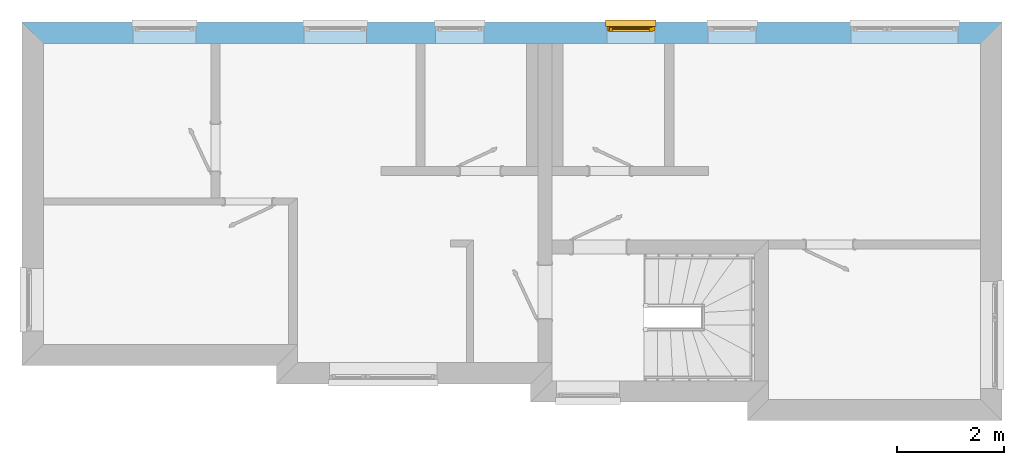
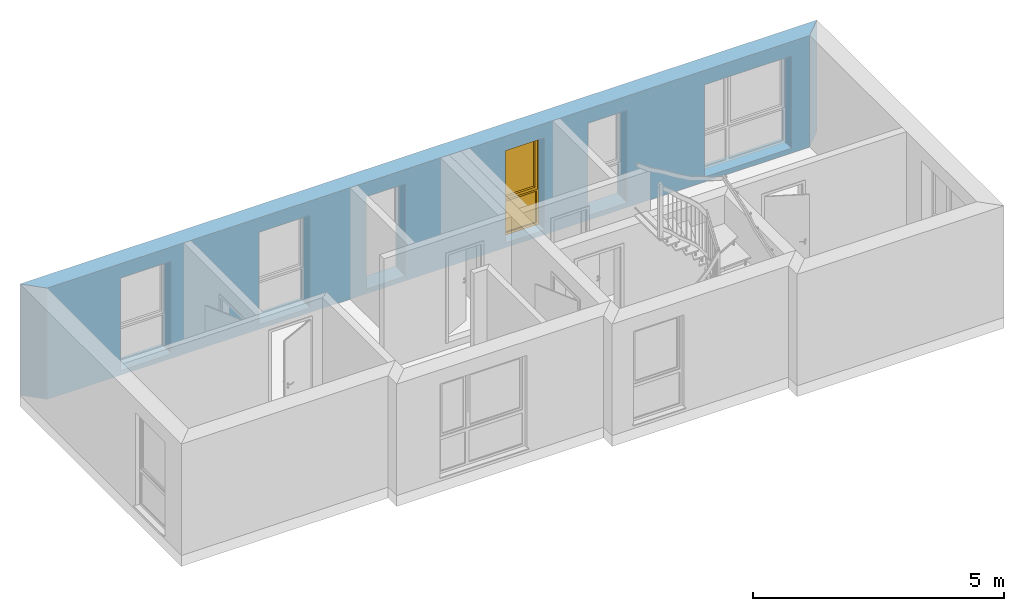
# One storey, part 11 of 16: 1 window, 6 openings, plus 1 element that does not belong to this part.
"""IFC2X3 building model written with IfcOpenShell, lengths in millimetres."""

from ifc_helpers import new_model, si_unit, frame, origin_with_axes, place, context, project, spatial, faceted_brep, material, layer, layer_set, layer_usage, type_object, element, fill, save


model = new_model("IFC2X3")

# Units and contexts
model_context = context("Model", 3, world=origin_with_axes())
ifc_project = project(units=[si_unit("LENGTHUNIT", "METRE", prefix="MILLI")], contexts=[model_context])

# Site, building, storey
site_placement = place(None, origin_with_axes())
site = spatial("IfcSite", under=ifc_project, at=site_placement, Name="Site", CompositionType="ELEMENT")
building_placement = place(site_placement, origin_with_axes())
building = spatial("IfcBuilding", under=site, at=building_placement, Name="?", CompositionType="ELEMENT")
storey_placement = place(building_placement, frame((0.0, 0.0, 2969.0), z_axis=(0.0, 0.0, 1.0), x_axis=(1.0, 0.0, 0.0)))
storey = spatial("IfcBuildingStorey", under=building, at=storey_placement, Name="Obergeschoß 1", CompositionType="ELEMENT", Elevation=2969.0)

# Wall, openings, window
ifc_material = material(Name="Material_AW")
ifc_layer = layer(ifc_material, 395.0, ventilated=False)
ifc_layer_set = layer_set([ifc_layer], Name="MaterialLayerSet_AW")
ifc_layer_usage = layer_usage(ifc_layer_set, "AXIS2", "NEGATIVE", 197.5)
wall_placement = place(storey_placement, frame((197.5, -197.5, 0.0), z_axis=(0.0, 0.0, 1.0), x_axis=(1.0, 0.0, 0.0)))
wall = element("IfcWall", 1, at=wall_placement, inside=storey, material=ifc_layer_usage, Name="AW-11", context=model_context, shape_type="Brep", body=[
    faceted_brep([(17707.5008600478, -197.5, 0.0), (17707.5008600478, -197.5, 2707.0), (197.5, -197.5, 2707.0), (197.5, -197.5, 0.0), (18102.5001275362, 197.499999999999, 0.0), (18102.5001275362, 197.499999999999, 2707.0), (17707.5008600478, -197.500000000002, 2707.0), (17707.5008600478, -197.500000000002, 0.0), (-197.500233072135, 197.5, 0.0), (-197.500233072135, 197.5, 2707.0), (18102.5001275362, 197.5, 2707.0), (18102.5001275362, 197.5, 0.0), (197.5, -197.5, 0.0), (197.5, -197.5, 2707.0), (-197.500233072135, 197.5, 2707.0), (-197.500233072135, 197.5, 0.0), (197.5, -197.5, 0.0), (-197.500233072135, 197.5, 0.0), (18102.5001275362, 197.5, 0.0), (17707.5008600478, -197.5, 0.0), (-197.500233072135, 197.5, 2707.0), (197.5, -197.5, 2707.0), (17707.5008600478, -197.5, 2707.0), (18102.5001275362, 197.5, 2707.0)], [[[0, 1, 2, 3]], [[4, 5, 6, 7]], [[8, 9, 10, 11]], [[12, 13, 14, 15]], [[16, 17, 18, 19]], [[20, 21, 22, 23]]]),
])
opening_1_placement = place(wall_placement, frame((5067.5, 0.0, 116.0), z_axis=(0.0, 0.0, 1.0), x_axis=(1.0, 0.0, 0.0)))
element("IfcOpeningElement", 2, at=opening_1_placement, cuts=wall, Name="AW-11|FE11", context=model_context, shape_type="Brep", body=[
    faceted_brep([(0.0, 207.5, 0.0), (0.0, 207.5, 2244.0), (1170.0, 207.5, 2244.0), (1170.0, 207.5, 0.0), (0.0, -207.5, 0.0), (0.0, -207.5, 2244.0), (0.0, 207.5, 2244.0), (0.0, 207.5, 0.0), (1170.0, -207.5, 0.0), (0.0, -207.5, 0.0), (0.0, 207.5, 0.0), (1170.0, 207.5, 0.0), (1170.0, -207.5, 2244.0), (1170.0, -207.5, 0.0), (1170.0, 207.5, 0.0), (1170.0, 207.5, 2244.0), (0.0, -207.5, 2244.0), (1170.0, -207.5, 2244.0), (1170.0, 207.5, 2244.0), (0.0, 207.5, 2244.0), (0.0, -207.5, 0.0), (1170.0, -207.5, 0.0), (1170.0, -207.5, 2244.0), (0.0, -207.5, 2244.0)], [[[0, 1, 2, 3]], [[4, 5, 6, 7]], [[8, 9, 10, 11]], [[12, 13, 14, 15]], [[16, 17, 18, 19]], [[20, 21, 22, 23]]]),
])
opening_2_placement = place(wall_placement, frame((10723.5, 0.0, 116.0), z_axis=(0.0, 0.0, 1.0), x_axis=(1.0, 0.0, 0.0)))
opening_2 = element("IfcOpeningElement", 3, at=opening_2_placement, cuts=wall, Name="AW-11|FE13", context=model_context, shape_type="Brep", body=[
    faceted_brep([(0.0, 207.5, 0.0), (0.0, 207.5, 2244.0), (900.0, 207.5, 2244.0), (900.0, 207.5, 0.0), (0.0, -207.5, 0.0), (0.0, -207.5, 2244.0), (0.0, 207.5, 2244.0), (0.0, 207.5, 0.0), (900.0, -207.5, 0.0), (0.0, -207.5, 0.0), (0.0, 207.5, 0.0), (900.0, 207.5, 0.0), (900.0, -207.5, 2244.0), (900.0, -207.5, 0.0), (900.0, 207.5, 0.0), (900.0, 207.5, 2244.0), (0.0, -207.5, 2244.0), (900.0, -207.5, 2244.0), (900.0, 207.5, 2244.0), (0.0, 207.5, 2244.0), (0.0, -207.5, 0.0), (900.0, -207.5, 0.0), (900.0, -207.5, 2244.0), (0.0, -207.5, 2244.0)], [[[0, 1, 2, 3]], [[4, 5, 6, 7]], [[8, 9, 10, 11]], [[12, 13, 14, 15]], [[16, 17, 18, 19]], [[20, 21, 22, 23]]]),
])
opening_3_placement = place(wall_placement, frame((12613.5, 0.0, 116.0), z_axis=(0.0, 0.0, 1.0), x_axis=(1.0, 0.0, 0.0)))
element("IfcOpeningElement", 4, at=opening_3_placement, cuts=wall, Name="AW-11|FE14", context=model_context, shape_type="Brep", body=[
    faceted_brep([(0.0, 207.5, 0.0), (0.0, 207.5, 2244.0), (900.0, 207.5, 2244.0), (900.0, 207.5, 0.0), (0.0, -207.5, 0.0), (0.0, -207.5, 2244.0), (0.0, 207.5, 2244.0), (0.0, 207.5, 0.0), (900.0, -207.5, 0.0), (0.0, -207.5, 0.0), (0.0, 207.5, 0.0), (900.0, 207.5, 0.0), (900.0, -207.5, 2244.0), (900.0, -207.5, 0.0), (900.0, 207.5, 0.0), (900.0, 207.5, 2244.0), (0.0, -207.5, 2244.0), (900.0, -207.5, 2244.0), (900.0, 207.5, 2244.0), (0.0, 207.5, 2244.0), (0.0, -207.5, 0.0), (900.0, -207.5, 0.0), (900.0, -207.5, 2244.0), (0.0, -207.5, 2244.0)], [[[0, 1, 2, 3]], [[4, 5, 6, 7]], [[8, 9, 10, 11]], [[12, 13, 14, 15]], [[16, 17, 18, 19]], [[20, 21, 22, 23]]]),
])
opening_4_placement = place(wall_placement, frame((15287.5, 0.0, 116.0), z_axis=(0.0, 0.0, 1.0), x_axis=(1.0, 0.0, 0.0)))
element("IfcOpeningElement", 5, at=opening_4_placement, cuts=wall, Name="AW-11|FE15", context=model_context, shape_type="Brep", body=[
    faceted_brep([(0.0, 207.5, 0.0), (0.0, 207.5, 2244.0), (2000.0, 207.5, 2244.0), (2000.0, 207.5, 0.0), (0.0, -207.5, 0.0), (0.0, -207.5, 2244.0), (0.0, 207.5, 2244.0), (0.0, 207.5, 0.0), (2000.0, -207.5, 0.0), (0.0, -207.5, 0.0), (0.0, 207.5, 0.0), (2000.0, 207.5, 0.0), (2000.0, -207.5, 2244.0), (2000.0, -207.5, 0.0), (2000.0, 207.5, 0.0), (2000.0, 207.5, 2244.0), (0.0, -207.5, 2244.0), (2000.0, -207.5, 2244.0), (2000.0, 207.5, 2244.0), (0.0, 207.5, 2244.0), (0.0, -207.5, 0.0), (2000.0, -207.5, 0.0), (2000.0, -207.5, 2244.0), (0.0, -207.5, 2244.0)], [[[0, 1, 2, 3]], [[4, 5, 6, 7]], [[8, 9, 10, 11]], [[12, 13, 14, 15]], [[16, 17, 18, 19]], [[20, 21, 22, 23]]]),
])
opening_5_placement = place(wall_placement, frame((7527.5, 0.0, 116.0), z_axis=(0.0, 0.0, 1.0), x_axis=(1.0, 0.0, 0.0)))
element("IfcOpeningElement", 6, at=opening_5_placement, cuts=wall, Name="AW-11|FE12", context=model_context, shape_type="Brep", body=[
    faceted_brep([(0.0, 207.5, 0.0), (0.0, 207.5, 2244.0), (900.0, 207.5, 2244.0), (900.0, 207.5, 0.0), (0.0, -207.5, 0.0), (0.0, -207.5, 2244.0), (0.0, 207.5, 2244.0), (0.0, 207.5, 0.0), (900.0, -207.5, 0.0), (0.0, -207.5, 0.0), (0.0, 207.5, 0.0), (900.0, 207.5, 0.0), (900.0, -207.5, 2244.0), (900.0, -207.5, 0.0), (900.0, 207.5, 0.0), (900.0, 207.5, 2244.0), (0.0, -207.5, 2244.0), (900.0, -207.5, 2244.0), (900.0, 207.5, 2244.0), (0.0, 207.5, 2244.0), (0.0, -207.5, 0.0), (900.0, -207.5, 0.0), (900.0, -207.5, 2244.0), (0.0, -207.5, 2244.0)], [[[0, 1, 2, 3]], [[4, 5, 6, 7]], [[8, 9, 10, 11]], [[12, 13, 14, 15]], [[16, 17, 18, 19]], [[20, 21, 22, 23]]]),
])
opening_6_placement = place(wall_placement, frame((1877.5, 0.0, 116.0), z_axis=(0.0, 0.0, 1.0), x_axis=(1.0, 0.0, 0.0)))
element("IfcOpeningElement", 7, at=opening_6_placement, cuts=wall, Name="AW-11|FE10", context=model_context, shape_type="Brep", body=[
    faceted_brep([(0.0, 207.5, 0.0), (0.0, 207.5, 2244.0), (1170.0, 207.5, 2244.0), (1170.0, 207.5, 0.0), (0.0, -207.5, 0.0), (0.0, -207.5, 2244.0), (0.0, 207.5, 2244.0), (0.0, 207.5, 0.0), (1170.0, -207.5, 0.0), (0.0, -207.5, 0.0), (0.0, 207.5, 0.0), (1170.0, 207.5, 0.0), (1170.0, -207.5, 2244.0), (1170.0, -207.5, 0.0), (1170.0, 207.5, 0.0), (1170.0, 207.5, 2244.0), (0.0, -207.5, 2244.0), (1170.0, -207.5, 2244.0), (1170.0, 207.5, 2244.0), (0.0, 207.5, 2244.0), (0.0, -207.5, 0.0), (1170.0, -207.5, 0.0), (1170.0, -207.5, 2244.0), (0.0, -207.5, 2244.0)], [[[0, 1, 2, 3]], [[4, 5, 6, 7]], [[8, 9, 10, 11]], [[12, 13, 14, 15]], [[16, 17, 18, 19]], [[20, 21, 22, 23]]]),
])
window_style = type_object("IfcWindowStyle", Name="FE13", ConstructionType="NOTDEFINED", OperationType="DOUBLE_PANEL_HORIZONTAL", ParameterTakesPrecedence=True, Sizeable=False)
window_placement = place(opening_2_placement, frame((900.0, 77.5, 0.0), z_axis=(0.0, 0.0, 1.0), x_axis=(-1.0, 0.0, 0.0)))
window = element("IfcWindow", 8, at=window_placement, inside=storey, type_object=window_style, Name="FE13", OverallHeight=2244.0, OverallWidth=900.0, context=model_context, shape_type="Brep", body=[
    faceted_brep([(0.0, -36.0, 0.0), (900.0, -36.0, 0.0), (885.0, -36.0, 15.0), (15.0, -36.0, 15.0), (15.0, 36.0, 15.0), (885.0, 36.0, 15.0), (900.0, 36.0, 0.0), (0.0, 36.0, 0.0), (0.0, 36.0, 0.0), (900.0, 36.0, 0.0), (900.0, -36.0, 0.0), (0.0, -36.0, 0.0), (900.0, -36.0, 0.0), (900.0, -36.0, 2244.0), (885.0, -36.0, 2229.0), (885.0, -36.0, 15.0), (885.0, 36.0, 14.999755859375), (885.0, 36.0, 2229.0), (900.0, 36.0, 2244.0), (900.0, 36.0, -0.000244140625), (900.0, 36.0, 0.0), (900.0, 36.0, 2244.0), (900.0, -36.0, 2244.0), (900.0, -36.0, 0.0), (900.0, -36.0, 2244.0), (0.0, -36.0, 2244.0), (15.0, -36.0, 2229.0), (885.0, -36.0, 2229.0), (884.9990234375, 36.0, 2229.0), (14.9990234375, 36.0, 2229.0), (-0.0009765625, 36.0, 2244.0), (899.9990234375, 36.0, 2244.0), (900.0, 36.0, 2244.0), (0.0, 36.0, 2244.0), (0.0, -36.0, 2244.0), (900.0, -36.0, 2244.0), (0.0, -36.0, 2244.0), (0.0, -36.0, 0.0), (15.0, -36.0, 15.0), (15.0, -36.0, 2229.0), (15.0, 36.0, 2229.0), (15.0, 36.0, 15.0), (0.0, 36.0, 0.0), (0.0, 36.0, 2244.0), (0.0, 36.0, 2244.0), (0.0, 36.0, 0.0), (0.0, -36.0, 0.0), (0.0, -36.0, 2244.0), (885.0, 36.0, 15.0), (15.0, 36.0, 15.0), (53.0, 36.0, 53.0), (847.0, 36.0, 53.0), (847.0, 36.0, 53.0), (53.0, 36.0, 53.0), (60.0, 24.9985354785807, 60.0007322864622), (840.0, 24.9985354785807, 60.0007322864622), (840.0, 25.0, 60.0), (60.0, 25.0, 60.0), (60.0, 12.0, 60.0), (840.0, 12.0, 60.0), (840.0, -12.0, 60.0), (60.0, -12.0, 60.0), (60.0, -25.0, 60.0), (840.0, -25.0, 60.0), (840.0, 12.0, 60.0), (60.0, 12.0, 60.0), (43.0, 12.0, 43.0), (857.0, 12.0, 43.0), (857.0, 12.0, 43.0), (43.0, 12.0, 43.0), (43.0, -12.0, 43.0), (857.0, -12.0, 43.0), (857.0, -12.0, 43.0), (43.0, -12.0, 43.0), (60.0, -12.0, 60.0), (840.0, -12.0, 60.0), (840.0, -25.0, 60.0), (60.0, -25.0, 60.0), (53.0, -36.0014645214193, 52.9992677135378), (847.0, -36.0014645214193, 52.9992677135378), (847.0, -36.0, 53.0), (53.0, -36.0, 53.0), (15.0, -36.0, 15.0), (885.0, -36.0, 15.0), (885.0, 36.0, 855.0), (885.0, 36.0, 15.0), (847.0, 36.0, 53.0), (847.0, 36.0, 817.0), (847.0, 36.0, 817.0), (847.0, 36.0, 53.0000000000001), (839.999023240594, 24.9985352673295, 60.0000000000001), (839.999023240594, 24.9985352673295, 810.0), (840.0, 25.0, 809.999267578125), (840.0, 25.0, 59.999267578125), (840.0, 12.0, 59.999267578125), (840.0, 12.0, 809.999267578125), (840.0, -12.0, 809.999267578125), (840.0, -12.0, 59.999267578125), (840.0, -25.0, 59.999267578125), (840.0, -25.0, 809.999267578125), (840.0, 12.0, 809.999267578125), (840.0, 12.0, 59.999267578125), (857.0, 12.0, 42.999267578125), (857.0, 12.0, 826.999267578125), (857.0, 12.0, 826.998779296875), (857.0, 12.0, 42.998779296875), (857.0, -12.0, 42.998779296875), (857.0, -12.0, 826.998779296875), (857.0, -12.0, 826.998779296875), (857.0, -12.0, 42.998779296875), (840.0, -12.0, 59.998779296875), (840.0, -12.0, 809.998779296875), (840.0, -25.0, 809.999267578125), (840.0, -25.0, 59.9992675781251), (847.000976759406, -36.0014647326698, 52.9992675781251), (847.000976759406, -36.0014647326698, 816.999267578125), (847.0, -36.0, 817.0), (847.0, -36.0, 53.0), (885.0, -36.0, 15.0), (885.0, -36.0, 855.0), (15.0, 36.0, 855.0), (43.0, 36.0, 883.0), (857.0, 36.0, 883.0), (885.0, 36.0, 855.0), (847.0, 36.0, 817.0), (53.0, 36.0, 817.0), (52.9990234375, 36.0, 817.0), (846.9990234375, 36.0, 817.0), (839.9990234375, 24.9985354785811, 809.999267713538), (59.9990234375, 24.9985354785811, 809.999267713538), (60.0, 25.0, 810.0), (840.0, 25.0, 810.0), (840.0, 12.0, 810.0), (60.0, 12.0, 810.0), (60.0, -12.0, 810.0), (840.0, -12.0, 810.0), (840.0, -25.0, 810.0), (60.0, -25.0, 810.0), (60.0, 12.0, 810.0), (840.0, 12.0, 810.0), (857.0, 12.0, 827.0), (43.0, 12.0, 827.0), (43.0, 12.0, 827.0), (857.0, 12.0, 827.0), (857.0, -12.0, 827.0), (43.0, -12.0, 827.0), (43.0, -12.0, 827.0), (857.0, -12.0, 827.0), (840.0, -12.0, 810.0), (60.0, -12.0, 810.0), (60.0000000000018, -25.0, 810.0), (840.000000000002, -25.0, 810.0), (847.000000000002, -36.0014645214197, 817.000732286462), (53.0000000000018, -36.0014645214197, 817.000732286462), (52.9990234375, -36.0, 817.0), (846.9990234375, -36.0, 817.0), (884.9990234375, -36.0, 855.0), (846.9990234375, -36.0, 893.0), (52.9990234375, -36.0, 893.0), (14.9990234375, -36.0, 855.0), (857.0, 36.0, 883.0), (43.0, 36.0, 883.0), (43.0, -21.0, 883.0), (857.0, -21.0, 883.0), (857.0, -21.0, 883.0), (43.0, -21.0, 883.0), (60.0, -21.0, 900.0), (840.0, -21.0, 900.0), (840.0, -21.0, 900.0), (60.0, -21.0, 900.0), (60.0, -25.0, 900.0), (840.0, -25.0, 900.0), (840.0, -25.0, 900.0), (60.0, -25.0, 900.0), (53.0, -36.0014645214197, 892.999267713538), (847.0, -36.0014645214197, 892.999267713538), (15.0, 36.0, 15.0), (15.0, 36.0, 855.0), (53.0, 36.0, 817.0), (53.0, 36.0, 53.0), (53.0, 36.0, 53.0), (53.0, 36.0, 817.0), (60.0009767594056, 24.9985352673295, 810.0), (60.0009767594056, 24.9985352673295, 60.0), (60.0, 25.0, 60.0007324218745), (60.0, 25.0, 810.000732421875), (59.99902343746, 11.9999999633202, 810.000732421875), (59.99902343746, 11.9999999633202, 60.0007324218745), (59.9990234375, -12.0, 60.0007324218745), (59.9990234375, -12.0, 810.000732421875), (59.99804687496, -25.0000000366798, 810.000732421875), (59.99804687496, -25.0000000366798, 60.0007324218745), (60.0, 12.0, 60.000732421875), (60.0, 12.0, 810.000732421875), (43.0, 12.0, 827.000732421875), (43.0, 12.0, 43.000732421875), (43.0, 12.0, 42.999755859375), (43.0, 12.0, 826.999755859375), (43.0, -12.0, 826.999755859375), (43.0, -12.0, 42.999755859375), (43.0, -12.0, 42.999755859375), (43.0, -12.0, 826.999755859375), (60.0, -12.0, 809.999755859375), (60.0, -12.0, 59.999755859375), (60.0, -25.0, 60.0007324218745), (60.0, -25.0, 810.000732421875), (52.999999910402, -36.001952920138, 817.000732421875), (52.999999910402, -36.001952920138, 53.0007324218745), (53.0, -36.0, 53.0), (53.0, -36.0, 817.0), (15.0, -36.0, 855.0), (15.0, -36.0, 15.0), (885.0, 36.0, 2229.0), (885.0, 36.0, 855.0), (857.0, 36.0, 883.0), (857.0, 36.0, 2201.0), (857.0, 36.0, 2201.0), (857.0, 36.0, 883.0), (857.0, -21.0, 883.0), (857.0, -21.0, 2201.0), (857.0, -21.0, 2201.0), (857.0, -21.0, 883.0), (840.0, -21.0, 900.0), (840.0, -21.0, 2184.0), (840.0, -21.0, 2184.00048828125), (840.0, -21.0, 900.00048828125), (840.0, -25.0, 900.00048828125), (840.0, -25.0, 2184.00048828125), (840.0, -25.0000000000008, 2184.00048828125), (840.0, -25.0000000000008, 900.00048828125), (847.000976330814, -36.0009765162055, 893.00048828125), (847.000976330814, -36.0009765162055, 2191.00048828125), (847.0, -36.0, 2191.0), (847.0, -36.0, 893.0), (885.0, -36.0, 855.0), (885.0, -36.0, 2229.0), (15.0, 36.0, 2229.0), (885.0, 36.0, 2229.0), (857.0, 36.0, 2201.0), (43.0, 36.0, 2201.0), (43.0, 36.0, 2201.0), (857.0, 36.0, 2201.0), (857.0, -21.0, 2201.0), (43.0, -21.0, 2201.0), (43.0, -21.0, 2201.0), (857.0, -21.0, 2201.0), (840.0, -21.0, 2184.0), (60.0, -21.0, 2184.0), (60.0, -21.0, 2184.0), (840.0, -21.0, 2184.0), (840.0, -25.0, 2184.0), (60.0, -25.0, 2184.0), (60.0000000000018, -25.0, 2184.0), (840.000000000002, -25.0, 2184.0), (847.000000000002, -36.001464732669, 2191.00097675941), (53.0000000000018, -36.001464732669, 2191.00097675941), (53.0, -36.0, 2191.0), (847.0, -36.0, 2191.0), (885.0, -36.0, 2229.0), (15.0, -36.0, 2229.0), (15.0, 36.0, 855.0), (15.0, 36.0, 2229.0), (43.0, 36.0, 2201.0), (43.0, 36.0, 883.0), (43.0, 36.0, 883.001220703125), (43.0, 36.0, 2201.0009765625), (43.0, -21.0, 2201.0009765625), (43.0, -21.0, 883.001220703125), (43.0, -21.0, 883.001220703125), (43.0, -21.0, 2201.0009765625), (60.0, -21.0, 2184.0009765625), (60.0, -21.0, 900.001220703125), (60.0, -21.0, 900.000732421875), (60.0, -21.0, 2184.0009765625), (60.0, -25.0, 2184.0009765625), (60.0, -25.0, 900.000732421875), (60.0, -25.0, 900.000732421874), (60.0, -25.0, 2184.0009765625), (53.0000001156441, -36.0017091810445, 2191.0009765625), (53.0000001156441, -36.0017091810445, 893.000732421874), (53.0, -36.0, 893.0), (53.0, -36.0, 2191.0), (15.0, -36.0, 2229.0), (15.0, -36.0, 855.0), (867.0, 52.0, 873.0), (33.0, 52.0, 873.0), (96.0, 52.0, 936.0), (804.0, 52.0, 936.0), (803.999999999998, 52.0, 936.0), (95.9999999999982, 52.0, 936.0), (109.999999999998, 19.9985360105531, 950.00048798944), (789.999999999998, 19.9985360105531, 950.00048798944), (790.0, 20.0, 950.0), (110.0, 20.0, 950.0), (103.0, 20.0, 943.0), (797.0, 20.0, 943.0), (797.0, 20.0, 943.0), (103.0, 20.0, 943.0), (103.0, -4.0, 943.0), (797.0, -4.0, 943.0), (797.0, -4.0, 943.0), (103.0, -4.0, 943.0), (110.0, -4.0, 950.0), (790.0, -4.0, 950.0), (790.0, -4.0, 950.0), (110.0, -4.0, 950.0), (102.0, -21.0014648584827, 941.999267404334), (798.0, -21.0014648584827, 941.999267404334), (798.0, -21.0, 942.0), (102.0, -21.0, 942.0), (51.0, -21.0, 891.0), (849.0, -21.0, 891.0), (849.0, -21.0, 891.0), (51.0, -21.0, 891.0), (51.0, 36.0, 891.0), (849.0, 36.0, 891.0), (849.0, 36.0, 891.0), (51.0, 36.0, 891.0), (33.0, 36.0, 873.0), (867.0, 36.0, 873.0), (867.0, 36.0, 873.0), (33.0, 36.0, 873.0), (33.0, 52.0, 873.0), (867.0, 52.0, 873.0), (867.0, 52.0, 2211.00048828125), (867.0, 52.0, 873.00048828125), (804.0, 52.0, 936.00048828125), (804.0, 52.0, 2148.00048828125), (804.0, 52.0, 2148.0), (804.0, 52.0, 935.999999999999), (789.999023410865, 19.9985357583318, 949.999999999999), (789.999023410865, 19.9985357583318, 2134.0), (790.0, 20.0, 2134.00048828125), (790.0, 20.0, 950.00048828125), (797.0, 20.0, 943.00048828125), (797.0, 20.0, 2141.00048828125), (797.0, 20.0, 2141.0009765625), (797.0, 20.0, 943.0009765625), (797.0, -4.0, 943.0009765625), (797.0, -4.0, 2141.0009765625), (797.0, -4.0, 2141.0009765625), (797.0, -4.0, 943.0009765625), (790.0, -4.0, 950.0009765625), (790.0, -4.0, 2134.0009765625), (790.0, -3.99999999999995, 2134.00048828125), (790.0, -3.99999999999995, 950.000488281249), (798.000000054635, -21.001708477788, 942.000488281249), (798.000000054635, -21.001708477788, 2142.00048828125), (798.0, -21.0, 2142.0009765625), (798.0, -21.0, 942.0009765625), (849.0, -21.0, 891.0009765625), (849.0, -21.0, 2193.0009765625), (849.0, -21.0, 2193.0009765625), (849.0, -21.0, 891.0009765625), (849.0, 36.0, 891.0009765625), (849.0, 36.0, 2193.0009765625), (849.0, 36.0, 2193.0009765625), (849.0, 36.0, 891.0009765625), (867.0, 36.0, 873.0009765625), (867.0, 36.0, 2211.0009765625), (867.0, 36.0, 2211.00048828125), (867.0, 36.0, 873.00048828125), (867.0, 52.0, 873.00048828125), (867.0, 52.0, 2211.00048828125), (33.0, 52.0, 2211.0), (867.0, 52.0, 2211.0), (804.0, 52.0, 2148.0), (96.0, 52.0, 2148.0), (96.0, 52.0, 2148.0), (804.0, 52.0, 2148.0), (790.0, 19.9985360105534, 2133.99951201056), (110.0, 19.9985360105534, 2133.99951201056), (110.0, 20.0, 2134.0), (790.0, 20.0, 2134.0), (797.0, 20.0, 2141.0), (103.0, 20.0, 2141.0), (103.0, 20.0, 2141.0), (797.0, 20.0, 2141.0), (797.0, -4.0, 2141.0), (103.0, -4.0, 2141.0), (103.0, -4.0, 2141.0), (797.0, -4.0, 2141.0), (790.0, -4.0, 2134.0), (110.0, -4.0, 2134.0), (110.0, -4.0, 2134.0), (790.0, -4.0, 2134.0), (798.0, -21.0014648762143, 2142.00048841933), (102.0, -21.0014648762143, 2142.00048841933), (102.0, -21.0, 2142.0), (798.0, -21.0, 2142.0), (849.0, -21.0, 2193.0), (51.0, -21.0, 2193.0), (51.0, -21.0, 2193.0), (849.0, -21.0, 2193.0), (849.0, 36.0, 2193.0), (51.0, 36.0, 2193.0), (51.0, 36.0, 2193.0), (849.0, 36.0, 2193.0), (867.0, 36.0, 2211.0), (33.0, 36.0, 2211.0), (33.0, 36.0, 2211.0), (867.0, 36.0, 2211.0), (867.0, 52.0, 2211.0), (33.0, 52.0, 2211.0), (33.0, 52.0, 873.0009765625), (33.0, 52.0, 2211.0009765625), (96.0, 52.0, 2148.0009765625), (96.0, 52.0, 936.0009765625), (96.0, 52.0, 935.999755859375), (96.0, 52.0, 2148.0), (110.000976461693, 19.9987802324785, 2134.0), (110.000976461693, 19.9987802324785, 949.999755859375), (110.0, 20.0, 950.001220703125), (110.0, 20.0, 2134.0009765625), (103.0, 20.0, 2141.0009765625), (103.0, 20.0, 943.001220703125), (103.0, 20.0, 943.00048828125), (103.0, 20.0, 2141.00048828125), (103.0, -4.0, 2141.00048828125), (103.0, -4.0, 943.00048828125), (103.0, -4.0, 943.00048828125), (103.0, -4.0, 2141.00048828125), (110.0, -4.0, 2134.00048828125), (110.0, -4.0, 950.00048828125), (110.0, -4.00000000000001, 950.001220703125), (110.0, -4.00000000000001, 2134.0009765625), (101.999023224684, -21.0014648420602, 2142.0009765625), (101.999023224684, -21.0014648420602, 942.001220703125), (102.0, -21.0, 942.00048828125), (102.0, -21.0, 2142.00048828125), (51.0, -21.0, 2193.00048828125), (51.0, -21.0, 891.00048828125), (51.0, -21.0, 891.00048828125), (51.0, -21.0, 2193.00048828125), (51.0, 36.0, 2193.00048828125), (51.0, 36.0, 891.00048828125), (51.0, 36.0, 891.00048828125), (51.0, 36.0, 2193.00048828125), (33.0, 36.0, 2211.00048828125), (33.0, 36.0, 873.00048828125), (33.0, 36.0, 873.0009765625), (33.0, 36.0, 2211.0009765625), (33.0, 52.0, 2211.0009765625), (33.0, 52.0, 873.0009765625), (60.0, 12.0, 60.0), (60.0, 12.0, 810.0), (840.0, 12.0, 810.0), (840.0, 12.0, 60.0), (60.0, -12.0, 60.0), (840.0, -12.0, 60.0), (840.0, -12.0, 810.0), (60.0, -12.0, 810.0), (110.0, 20.0, 950.0), (110.0, 20.0, 2134.0), (790.0, 20.0, 2134.0), (790.0, 20.0, 950.0), (110.0, -4.0, 950.0), (790.0, -4.0, 950.0), (790.0, -4.0, 2134.0), (110.0, -4.0, 2134.0), (-20.0, -36.0, 0.5), (-20.0, -160.0, 0.5), (920.0, -160.0, 0.5), (920.0, -36.0, 0.5), (-20.0, -36.0, -19.5), (-20.0, -36.0, 0.5), (920.0, -36.0, 0.5), (920.0, -36.0, -19.5), (-20.0, -160.0, -19.5), (-20.0, -36.0, -19.5), (920.0, -36.0, -19.5), (920.0, -160.0, -19.5), (-20.0, -160.0, 0.5), (-20.0, -160.0, -19.5), (920.0, -160.0, -19.5), (920.0, -160.0, 0.5), (-20.0, -160.0, -19.5), (-20.0, -160.0, 0.5), (-20.0, -36.0, 0.5), (-20.0, -36.0, -19.5), (920.0, -160.0, 0.5), (920.0, -160.0, -19.5), (920.0, -36.0, -19.5), (920.0, -36.0, 0.5)], [[[0, 1, 2, 3]], [[4, 5, 6, 7]], [[8, 9, 10, 11]], [[12, 13, 14, 15]], [[16, 17, 18, 19]], [[20, 21, 22, 23]], [[24, 25, 26, 27]], [[28, 29, 30, 31]], [[32, 33, 34, 35]], [[36, 37, 38, 39]], [[40, 41, 42, 43]], [[44, 45, 46, 47]], [[48, 49, 50, 51]], [[52, 53, 54, 55]], [[56, 57, 58, 59]], [[60, 61, 62, 63]], [[64, 65, 66, 67]], [[68, 69, 70, 71]], [[72, 73, 74, 75]], [[76, 77, 78, 79]], [[80, 81, 82, 83]], [[84, 85, 86, 87]], [[88, 89, 90, 91]], [[92, 93, 94, 95]], [[96, 97, 98, 99]], [[100, 101, 102, 103]], [[104, 105, 106, 107]], [[108, 109, 110, 111]], [[112, 113, 114, 115]], [[116, 117, 118, 119]], [[120, 121, 122, 123, 124, 125]], [[126, 127, 128, 129]], [[130, 131, 132, 133]], [[134, 135, 136, 137]], [[138, 139, 140, 141]], [[142, 143, 144, 145]], [[146, 147, 148, 149]], [[150, 151, 152, 153]], [[154, 155, 156, 157, 158, 159]], [[160, 161, 162, 163]], [[164, 165, 166, 167]], [[168, 169, 170, 171]], [[172, 173, 174, 175]], [[176, 177, 178, 179]], [[180, 181, 182, 183]], [[184, 185, 186, 187]], [[188, 189, 190, 191]], [[192, 193, 194, 195]], [[196, 197, 198, 199]], [[200, 201, 202, 203]], [[204, 205, 206, 207]], [[208, 209, 210, 211]], [[212, 213, 214, 215]], [[216, 217, 218, 219]], [[220, 221, 222, 223]], [[224, 225, 226, 227]], [[228, 229, 230, 231]], [[232, 233, 234, 235]], [[236, 237, 238, 239]], [[240, 241, 242, 243]], [[244, 245, 246, 247]], [[248, 249, 250, 251]], [[252, 253, 254, 255]], [[256, 257, 258, 259]], [[260, 261, 262, 263]], [[264, 265, 266, 267]], [[268, 269, 270, 271]], [[272, 273, 274, 275]], [[276, 277, 278, 279]], [[280, 281, 282, 283]], [[284, 285, 286, 287]], [[288, 289, 290, 291]], [[292, 293, 294, 295]], [[296, 297, 298, 299]], [[300, 301, 302, 303]], [[304, 305, 306, 307]], [[308, 309, 310, 311]], [[312, 313, 314, 315]], [[316, 317, 318, 319]], [[320, 321, 322, 323]], [[324, 325, 326, 327]], [[328, 329, 330, 331]], [[332, 333, 334, 335]], [[336, 337, 338, 339]], [[340, 341, 342, 343]], [[344, 345, 346, 347]], [[348, 349, 350, 351]], [[352, 353, 354, 355]], [[356, 357, 358, 359]], [[360, 361, 362, 363]], [[364, 365, 366, 367]], [[368, 369, 370, 371]], [[372, 373, 374, 375]], [[376, 377, 378, 379]], [[380, 381, 382, 383]], [[384, 385, 386, 387]], [[388, 389, 390, 391]], [[392, 393, 394, 395]], [[396, 397, 398, 399]], [[400, 401, 402, 403]], [[404, 405, 406, 407]], [[408, 409, 410, 411]], [[412, 413, 414, 415]], [[416, 417, 418, 419]], [[420, 421, 422, 423]], [[424, 425, 426, 427]], [[428, 429, 430, 431]], [[432, 433, 434, 435]], [[436, 437, 438, 439]], [[440, 441, 442, 443]], [[444, 445, 446, 447]], [[448, 449, 450, 451]], [[452, 453, 454, 455]], [[456, 457, 458, 459]], [[460, 461, 462, 463]], [[464, 465, 466, 467]], [[468, 469, 470, 471]], [[472, 473, 474, 475]], [[476, 477, 478, 479]], [[480, 481, 482, 483]]]),
])
fill(opening_2, window)

save(model, "model.ifc")
